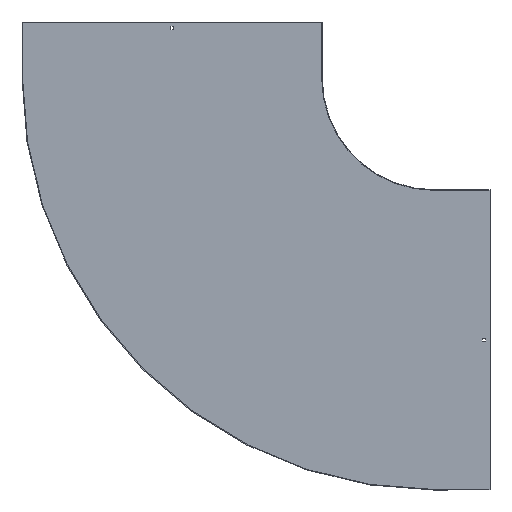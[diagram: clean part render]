
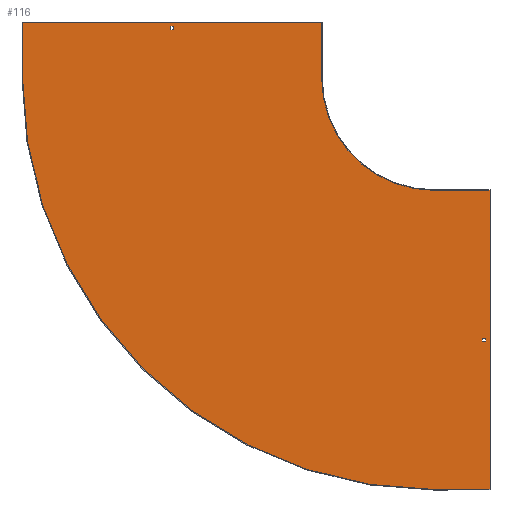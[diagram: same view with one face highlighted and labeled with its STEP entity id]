
A CAD part, front view. The second image highlights one B-rep face of the part: STEP entity #116.
In plain terms, the highlighted planar face has unit normal (0, -1, 0).
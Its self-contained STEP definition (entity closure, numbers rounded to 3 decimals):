
#4 = DIRECTION ( 'NONE',  ( 0., 0., -1. ) ) ;
#7 = ORIENTED_EDGE ( 'NONE', *, *, #860, .F. ) ;
#18 = VERTEX_POINT ( 'NONE', #297 ) ;
#24 = LINE ( 'NONE', #73, #626 ) ;
#29 = CARTESIAN_POINT ( 'NONE',  ( 138., -1.5, -703.25 ) ) ;
#40 = CARTESIAN_POINT ( 'NONE',  ( -696.75, -1.5, 138. ) ) ;
#50 = VECTOR ( 'NONE', #280, 1000. ) ;
#52 = VERTEX_POINT ( 'NONE', #585 ) ;
#54 = VERTEX_POINT ( 'NONE', #456 ) ;
#58 = CARTESIAN_POINT ( 'NONE',  ( 0., -1.5, -703.25 ) ) ;
#68 = CARTESIAN_POINT ( 'NONE',  ( -1100., -1.5, 0. ) ) ;
#73 = CARTESIAN_POINT ( 'NONE',  ( 129., -1.5, 0. ) ) ;
#77 = ORIENTED_EDGE ( 'NONE', *, *, #392, .F. ) ;
#82 = DIRECTION ( 'NONE',  ( 0., 0., -1. ) ) ;
#99 = VERTEX_POINT ( 'NONE', #789 ) ;
#100 = CARTESIAN_POINT ( 'NONE',  ( -703.25, -1.5, 129. ) ) ;
#108 = DIRECTION ( 'NONE',  ( 1., 0., 0. ) ) ;
#111 = CARTESIAN_POINT ( 'NONE',  ( 0., -1.5, 0. ) ) ;
#116 = ADVANCED_FACE ( 'NONE', ( #387, #518, #480 ), #347, .T. ) ;
#125 = CARTESIAN_POINT ( 'NONE',  ( 0., -1.5, 138. ) ) ;
#126 = VECTOR ( 'NONE', #332, 1000. ) ;
#135 = LINE ( 'NONE', #68, #739 ) ;
#136 = VERTEX_POINT ( 'NONE', #355 ) ;
#140 = DIRECTION ( 'NONE',  ( 1., 0., 0. ) ) ;
#156 = ORIENTED_EDGE ( 'NONE', *, *, #202, .T. ) ;
#165 = DIRECTION ( 'NONE',  ( 0., 0., -1. ) ) ;
#175 = CIRCLE ( 'NONE', #243, 300. ) ;
#183 = ORIENTED_EDGE ( 'NONE', *, *, #779, .F. ) ;
#185 = AXIS2_PLACEMENT_3D ( 'NONE', #528, #546, #4 ) ;
#188 = LINE ( 'NONE', #459, #659 ) ;
#191 = LINE ( 'NONE', #391, #413 ) ;
#198 = EDGE_LOOP ( 'NONE', ( #606, #331, #377, #156 ) ) ;
#201 = CARTESIAN_POINT ( 'NONE',  ( 0., -1.5, 0. ) ) ;
#202 = EDGE_CURVE ( 'NONE', #339, #136, #772, .T. ) ;
#210 = DIRECTION ( 'NONE',  ( 0., -1., 0. ) ) ;
#211 = VERTEX_POINT ( 'NONE', #574 ) ;
#213 = VERTEX_POINT ( 'NONE', #237 ) ;
#229 = EDGE_CURVE ( 'NONE', #742, #493, #257, .T. ) ;
#231 = CARTESIAN_POINT ( 'NONE',  ( -696.75, -1.5, 129. ) ) ;
#237 = CARTESIAN_POINT ( 'NONE',  ( -1100., -1.5, 0. ) ) ;
#239 = CARTESIAN_POINT ( 'NONE',  ( 0., -1.5, -300. ) ) ;
#241 = VECTOR ( 'NONE', #165, 1000. ) ;
#243 = AXIS2_PLACEMENT_3D ( 'NONE', #201, #210, #685 ) ;
#249 = EDGE_CURVE ( 'NONE', #18, #536, #655, .T. ) ;
#257 = LINE ( 'NONE', #758, #359 ) ;
#262 = EDGE_CURVE ( 'NONE', #136, #742, #735, .T. ) ;
#267 = ORIENTED_EDGE ( 'NONE', *, *, #817, .F. ) ;
#272 = DIRECTION ( 'NONE',  ( 0., 0., 1. ) ) ;
#280 = DIRECTION ( 'NONE',  ( -1., 0., 0. ) ) ;
#282 = CARTESIAN_POINT ( 'NONE',  ( 129., -1.5, -696.75 ) ) ;
#289 = CARTESIAN_POINT ( 'NONE',  ( 0., -1.5, -1100. ) ) ;
#297 = CARTESIAN_POINT ( 'NONE',  ( 129., -1.5, -703.25 ) ) ;
#305 = VECTOR ( 'NONE', #140, 1000. ) ;
#318 = VECTOR ( 'NONE', #825, 1000. ) ;
#331 = ORIENTED_EDGE ( 'NONE', *, *, #229, .T. ) ;
#332 = DIRECTION ( 'NONE',  ( 1., 0., 0. ) ) ;
#339 = VERTEX_POINT ( 'NONE', #100 ) ;
#347 = PLANE ( 'NONE',  #790 ) ;
#355 = CARTESIAN_POINT ( 'NONE',  ( -703.25, -1.5, 138. ) ) ;
#359 = VECTOR ( 'NONE', #753, 1000. ) ;
#377 = ORIENTED_EDGE ( 'NONE', *, *, #429, .T. ) ;
#378 = DIRECTION ( 'NONE',  ( 0., -1., 0. ) ) ;
#384 = VERTEX_POINT ( 'NONE', #519 ) ;
#387 = FACE_BOUND ( 'NONE', #647, .T. ) ;
#391 = CARTESIAN_POINT ( 'NONE',  ( 138., -1.5, 0. ) ) ;
#392 = EDGE_CURVE ( 'NONE', #669, #384, #512, .T. ) ;
#400 = CARTESIAN_POINT ( 'NONE',  ( -300., -1.5, 150. ) ) ;
#404 = DIRECTION ( 'NONE',  ( 1., 0., 0. ) ) ;
#413 = VECTOR ( 'NONE', #272, 1000. ) ;
#417 = ORIENTED_EDGE ( 'NONE', *, *, #571, .F. ) ;
#423 = LINE ( 'NONE', #553, #318 ) ;
#429 = EDGE_CURVE ( 'NONE', #493, #339, #188, .T. ) ;
#434 = CARTESIAN_POINT ( 'NONE',  ( 150., -1.5, -1100. ) ) ;
#436 = EDGE_CURVE ( 'NONE', #54, #211, #729, .T. ) ;
#443 = VECTOR ( 'NONE', #449, 1000. ) ;
#449 = DIRECTION ( 'NONE',  ( 0., 0., 1. ) ) ;
#456 = CARTESIAN_POINT ( 'NONE',  ( -1100., -1.5, 150. ) ) ;
#459 = CARTESIAN_POINT ( 'NONE',  ( 0., -1.5, 129. ) ) ;
#460 = EDGE_CURVE ( 'NONE', #213, #54, #135, .T. ) ;
#467 = EDGE_CURVE ( 'NONE', #384, #52, #671, .T. ) ;
#468 = EDGE_LOOP ( 'NONE', ( #599, #787, #267, #727, #754, #77, #7, #837 ) ) ;
#479 = ORIENTED_EDGE ( 'NONE', *, *, #249, .F. ) ;
#480 = FACE_BOUND ( 'NONE', #198, .T. ) ;
#493 = VERTEX_POINT ( 'NONE', #231 ) ;
#512 = LINE ( 'NONE', #713, #676 ) ;
#518 = FACE_OUTER_BOUND ( 'NONE', #468, .T. ) ;
#519 = CARTESIAN_POINT ( 'NONE',  ( 150., -1.5, -300. ) ) ;
#524 = DIRECTION ( 'NONE',  ( -1., 0., 0. ) ) ;
#528 = CARTESIAN_POINT ( 'NONE',  ( 0., -1.5, 0. ) ) ;
#530 = EDGE_CURVE ( 'NONE', #52, #575, #757, .T. ) ;
#536 = VERTEX_POINT ( 'NONE', #29 ) ;
#545 = CARTESIAN_POINT ( 'NONE',  ( 150., -1.5, -298.5 ) ) ;
#546 = DIRECTION ( 'NONE',  ( 0., 1., 0. ) ) ;
#553 = CARTESIAN_POINT ( 'NONE',  ( 0., -1.5, -696.75 ) ) ;
#571 = EDGE_CURVE ( 'NONE', #819, #712, #423, .T. ) ;
#574 = CARTESIAN_POINT ( 'NONE',  ( -300., -1.5, 150. ) ) ;
#575 = VERTEX_POINT ( 'NONE', #289 ) ;
#580 = VECTOR ( 'NONE', #752, 1000. ) ;
#582 = DIRECTION ( 'NONE',  ( 0., 0., -1. ) ) ;
#585 = CARTESIAN_POINT ( 'NONE',  ( 150., -1.5, -1100. ) ) ;
#599 = ORIENTED_EDGE ( 'NONE', *, *, #436, .F. ) ;
#606 = ORIENTED_EDGE ( 'NONE', *, *, #262, .T. ) ;
#626 = VECTOR ( 'NONE', #82, 1000. ) ;
#647 = EDGE_LOOP ( 'NONE', ( #417, #183, #479, #851 ) ) ;
#655 = LINE ( 'NONE', #58, #722 ) ;
#659 = VECTOR ( 'NONE', #524, 1000. ) ;
#669 = VERTEX_POINT ( 'NONE', #239 ) ;
#671 = LINE ( 'NONE', #545, #580 ) ;
#676 = VECTOR ( 'NONE', #108, 1000. ) ;
#685 = DIRECTION ( 'NONE',  ( 0., 0., -1. ) ) ;
#710 = EDGE_CURVE ( 'NONE', #712, #18, #24, .T. ) ;
#712 = VERTEX_POINT ( 'NONE', #282 ) ;
#713 = CARTESIAN_POINT ( 'NONE',  ( 0., -1.5, -300. ) ) ;
#722 = VECTOR ( 'NONE', #404, 1000. ) ;
#727 = ORIENTED_EDGE ( 'NONE', *, *, #530, .F. ) ;
#729 = LINE ( 'NONE', #749, #126 ) ;
#733 = EDGE_CURVE ( 'NONE', #211, #99, #744, .T. ) ;
#735 = LINE ( 'NONE', #125, #305 ) ;
#739 = VECTOR ( 'NONE', #801, 1000. ) ;
#742 = VERTEX_POINT ( 'NONE', #40 ) ;
#744 = LINE ( 'NONE', #400, #241 ) ;
#749 = CARTESIAN_POINT ( 'NONE',  ( -1101.5, -1.5, 150. ) ) ;
#752 = DIRECTION ( 'NONE',  ( 0., 0., -1. ) ) ;
#753 = DIRECTION ( 'NONE',  ( 0., 0., -1. ) ) ;
#754 = ORIENTED_EDGE ( 'NONE', *, *, #467, .F. ) ;
#757 = LINE ( 'NONE', #434, #50 ) ;
#758 = CARTESIAN_POINT ( 'NONE',  ( -696.75, -1.5, 0. ) ) ;
#770 = CIRCLE ( 'NONE', #185, 1100. ) ;
#772 = LINE ( 'NONE', #784, #443 ) ;
#779 = EDGE_CURVE ( 'NONE', #536, #819, #191, .T. ) ;
#784 = CARTESIAN_POINT ( 'NONE',  ( -703.25, -1.5, 0. ) ) ;
#787 = ORIENTED_EDGE ( 'NONE', *, *, #460, .F. ) ;
#789 = CARTESIAN_POINT ( 'NONE',  ( -300., -1.5, 0. ) ) ;
#790 = AXIS2_PLACEMENT_3D ( 'NONE', #111, #378, #582 ) ;
#797 = CARTESIAN_POINT ( 'NONE',  ( 138., -1.5, -696.75 ) ) ;
#801 = DIRECTION ( 'NONE',  ( 0., 0., 1. ) ) ;
#817 = EDGE_CURVE ( 'NONE', #575, #213, #770, .T. ) ;
#819 = VERTEX_POINT ( 'NONE', #797 ) ;
#825 = DIRECTION ( 'NONE',  ( -1., 0., 0. ) ) ;
#837 = ORIENTED_EDGE ( 'NONE', *, *, #733, .F. ) ;
#851 = ORIENTED_EDGE ( 'NONE', *, *, #710, .F. ) ;
#860 = EDGE_CURVE ( 'NONE', #99, #669, #175, .T. ) ;
